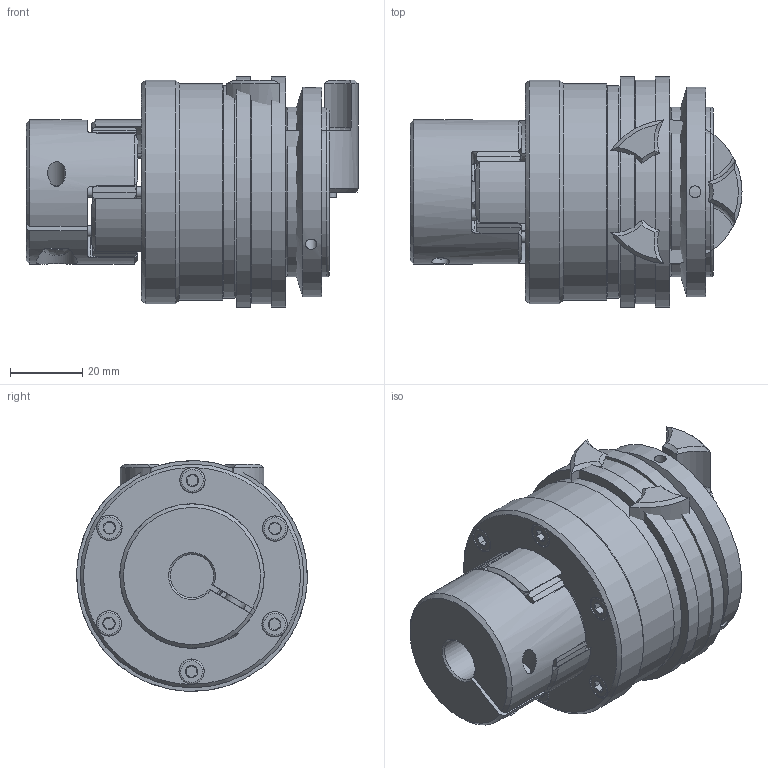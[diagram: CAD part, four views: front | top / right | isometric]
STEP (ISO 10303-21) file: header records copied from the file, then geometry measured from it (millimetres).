
FILE_DESCRIPTION( ( 'Unknown' ), '1' );
FILE_NAME( 'C:/Dokumente und Einstellungen/Sven/Desktop/hp kbk/E-KI/KBK EKI-19-85.stp', 'Unknown', ( 'Unknown' ), ( 'Unknown' ), 'XStep 1.0', 'Unknown', ' ' );
FILE_SCHEMA( ( 'automotive_design' ) );
Length unit declared in the file: millimetre
Products named in the file (17): Assem1; Assem2; ball_bearing_-_6005_0_01; ball_bearing_-_6005_0_02; ball_bearing_-_6005_0_03; KBK L-I-30 Grundkörper; Stellring 30; Druckring 30; Flansch L30; a_25; Konusbuchse KBK L-I-30; din_en_24017_m5x16; Elastomerflansch 19; Zahnkranz_19; ISO EN DIN 4762_M4x16; schraube_iso_7380-m6x16-12_9; KBE 2 C - 19_Nabe
Bounding box: 92 x 64 x 64 mm (x, y, z)
Volume: 280666.1 mm3; surface area: 153383.9 mm2
Topology: 43 solids, 43 shells, 1012 faces, 2220 edges, 1397 vertices
Faces by surface type: plane 383, cylinder 298, cone 261, torus 68, bspline 2
Full cylindrical faces by diameter (mm): 2 x4, 3 x12, 3.242 x18, 3.5 x7, 4 x14, 4.134 x18, 4.2 x12, 5 x9, 5.5 x12, 6 x2, 6.5 x2, 6.88 x7, 7 x19, 8 x2, 12 x4, 18 x4, 23.9 x2, 24.4 x2, 25 x7, 32 x6, 34 x2, 38 x4, 39.5 x2, 40 x2, 40.3 x6, 47 x7, 52 x2, 58 x2, 59 x2, 60 x2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
Entity records: 11044 total; most frequent: CARTESIAN_POINT 2593, DIRECTION 1793, ORIENTED_EDGE 1418, AXIS2_PLACEMENT_3D 812, EDGE_CURVE 709, EDGE_LOOP 596, VERTEX_POINT 516, FACE_OUTER_BOUND 475
